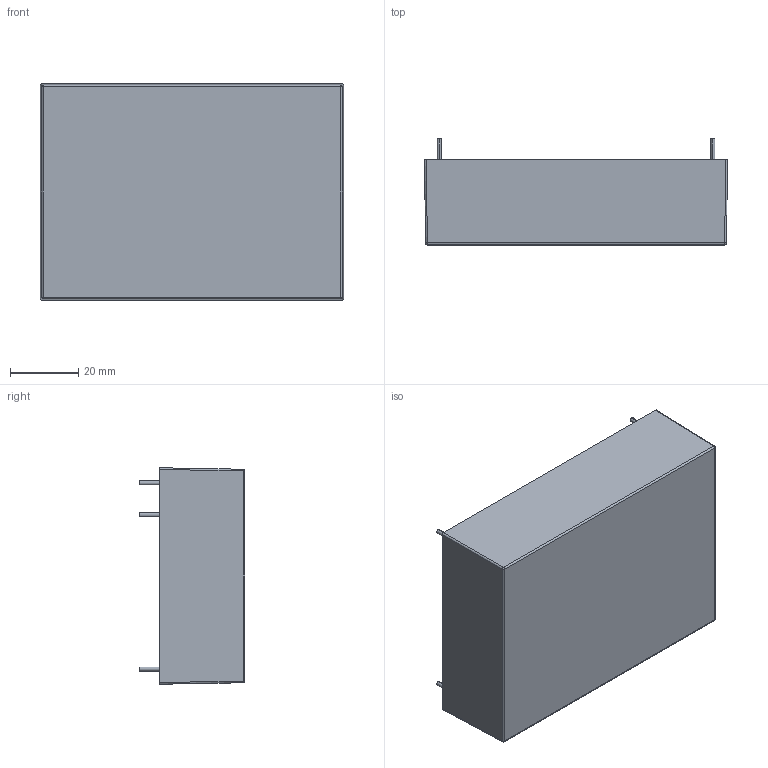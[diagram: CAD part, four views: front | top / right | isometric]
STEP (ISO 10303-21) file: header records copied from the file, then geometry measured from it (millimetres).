
FILE_DESCRIPTION (( 'STEP AP214' ), '1' );
FILE_NAME ('DH30(45)W10-XXP成品圖-1120906.STEP', '2023-09-06T03:06:51', ( 'cincon' ), ( '' ), 'SwSTEP 2.0', 'SolidWorks 2020', '' );
FILE_SCHEMA (( 'AUTOMOTIVE_DESIGN' ));
Length unit declared in the file: millimetre
Products named in the file (1): DH30(45)W10-XXP成品圖-1120906
Bounding box: 89 x 31 x 63.5 mm (x, y, z)
Volume: 26718.8 mm3; surface area: 47553.9 mm2
Topology: 1 solids, 1 shells, 284 faces, 740 edges, 484 vertices
Faces by surface type: plane 190, cylinder 48, bspline 32, cone 10, sphere 4
Entity records: 14318 total; most frequent: CARTESIAN_POINT 4301, ORIENTED_EDGE 1472, DIRECTION 1286, EDGE_CURVE 736, VECTOR 556, LINE 556, VERTEX_POINT 484, AXIS2_PLACEMENT_3D 365
